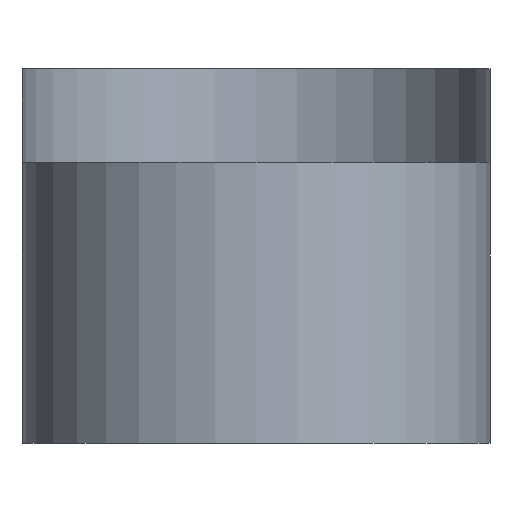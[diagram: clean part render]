
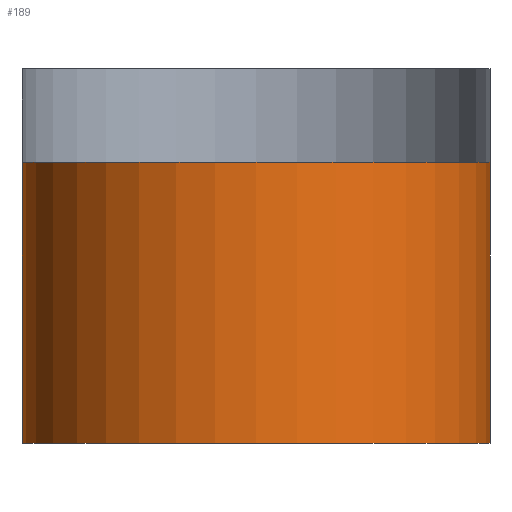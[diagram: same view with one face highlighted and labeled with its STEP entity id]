
A CAD part, front view. The second image highlights one B-rep face of the part: STEP entity #189.
In plain terms, the highlighted cylindrical face has radius 5 mm (diameter 10 mm), a full revolution.
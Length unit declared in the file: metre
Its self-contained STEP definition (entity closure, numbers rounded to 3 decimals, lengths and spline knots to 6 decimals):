
#15=LINE('',#306,#25);
#16=LINE('',#310,#26);
#25=VECTOR('',#251,1.);
#26=VECTOR('',#254,1.);
#35=CYLINDRICAL_SURFACE('',#218,0.005);
#43=ORIENTED_EDGE('',*,*,#89,.T.);
#44=ORIENTED_EDGE('',*,*,#90,.F.);
#45=ORIENTED_EDGE('',*,*,#91,.F.);
#46=ORIENTED_EDGE('',*,*,#92,.T.);
#47=ORIENTED_EDGE('',*,*,#87,.F.);
#87=EDGE_CURVE('',#110,#111,#127,.T.);
#89=EDGE_CURVE('',#112,#112,#129,.T.);
#90=EDGE_CURVE('',#113,#110,#15,.T.);
#91=EDGE_CURVE('',#114,#113,#130,.T.);
#92=EDGE_CURVE('',#114,#111,#16,.T.);
#110=VERTEX_POINT('',#300);
#111=VERTEX_POINT('',#301);
#112=VERTEX_POINT('',#305);
#113=VERTEX_POINT('',#307);
#114=VERTEX_POINT('',#309);
#127=CIRCLE('',#216,0.005);
#129=CIRCLE('',#219,0.005);
#130=CIRCLE('',#220,0.005);
#139=EDGE_LOOP('',(#43));
#140=EDGE_LOOP('',(#44,#45,#46,#47));
#161=FACE_BOUND('',#139,.T.);
#162=FACE_BOUND('',#140,.T.);
#189=ADVANCED_FACE('',(#161,#162),#35,.T.);
#216=AXIS2_PLACEMENT_3D('',#299,#243,#244);
#218=AXIS2_PLACEMENT_3D('',#303,#247,#248);
#219=AXIS2_PLACEMENT_3D('',#304,#249,#250);
#220=AXIS2_PLACEMENT_3D('',#308,#252,#253);
#243=DIRECTION('',(0.,0.,1.));
#244=DIRECTION('',(1.,0.,0.));
#247=DIRECTION('',(0.,0.,-1.));
#248=DIRECTION('',(-1.,0.,0.));
#249=DIRECTION('',(0.,0.,1.));
#250=DIRECTION('',(1.,0.,0.));
#251=DIRECTION('',(0.,0.,1.));
#252=DIRECTION('',(0.,0.,1.));
#253=DIRECTION('',(1.,0.,0.));
#254=DIRECTION('',(0.,0.,1.));
#299=CARTESIAN_POINT('',(0.,0.,0.006));
#300=CARTESIAN_POINT('',(-0.005,0.,0.006));
#301=CARTESIAN_POINT('',(0.005,0.,0.006));
#303=CARTESIAN_POINT('',(0.,0.,0.004));
#304=CARTESIAN_POINT('',(0.,0.,0.));
#305=CARTESIAN_POINT('',(0.005,0.,0.));
#306=CARTESIAN_POINT('',(-0.005,0.,0.004));
#307=CARTESIAN_POINT('',(-0.005,0.,0.004));
#308=CARTESIAN_POINT('',(0.,0.,0.004));
#309=CARTESIAN_POINT('',(0.005,0.,0.004));
#310=CARTESIAN_POINT('',(0.005,0.,0.004));
